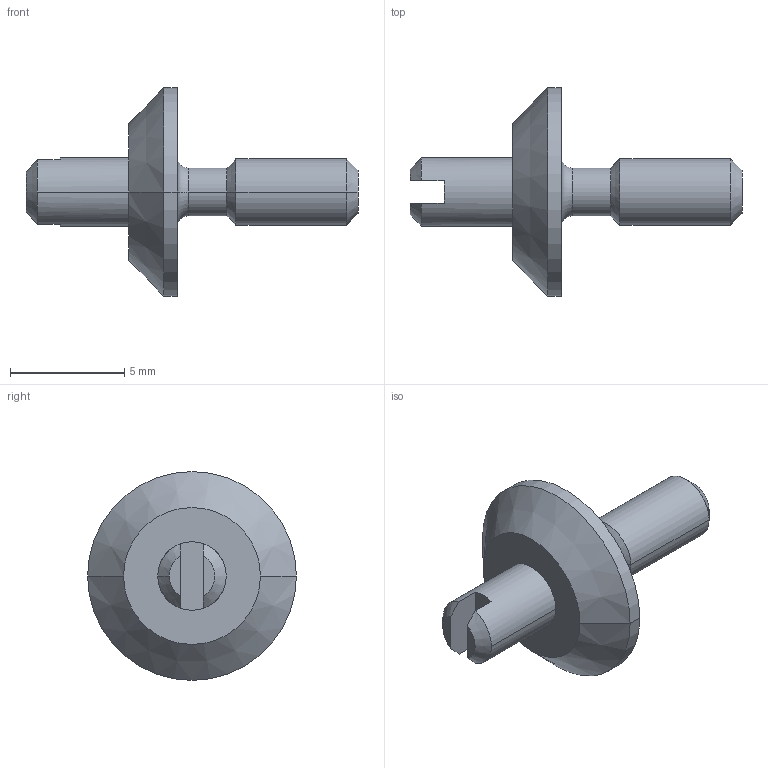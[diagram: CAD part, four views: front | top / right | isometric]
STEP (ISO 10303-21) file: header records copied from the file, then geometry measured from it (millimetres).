
FILE_DESCRIPTION (( 'STEP AP214' ), '1' );
FILE_NAME ('Âèíò_098_Ì3.STEP', '2024-08-29T08:20:42', ( '' ), ( '' ), 'SwSTEP 2.0', 'SolidWorks 2022', '' );
FILE_SCHEMA (( 'AUTOMOTIVE_DESIGN' ));
Length unit declared in the file: millimetre
Products named in the file (1): Винт_098_М3
Bounding box: 14.55 x 9.15 x 9.15 mm (x, y, z)
Volume: 180.2 mm3; surface area: 274.7 mm2
Topology: 1 solids, 1 shells, 27 faces, 58 edges, 35 vertices
Faces by surface type: cone 9, cylinder 8, plane 8, torus 2
Entity records: 795 total; most frequent: DIRECTION 141, CARTESIAN_POINT 133, ORIENTED_EDGE 116, AXIS2_PLACEMENT_3D 59, EDGE_CURVE 58, VERTEX_POINT 35, CIRCLE 31, EDGE_LOOP 29
